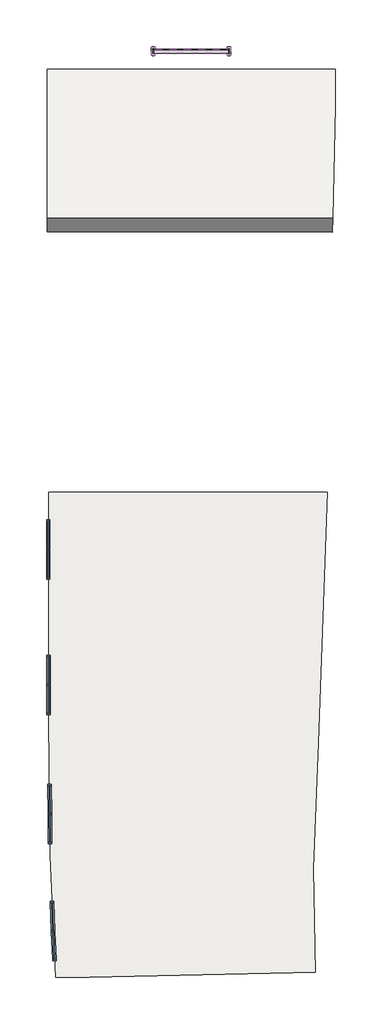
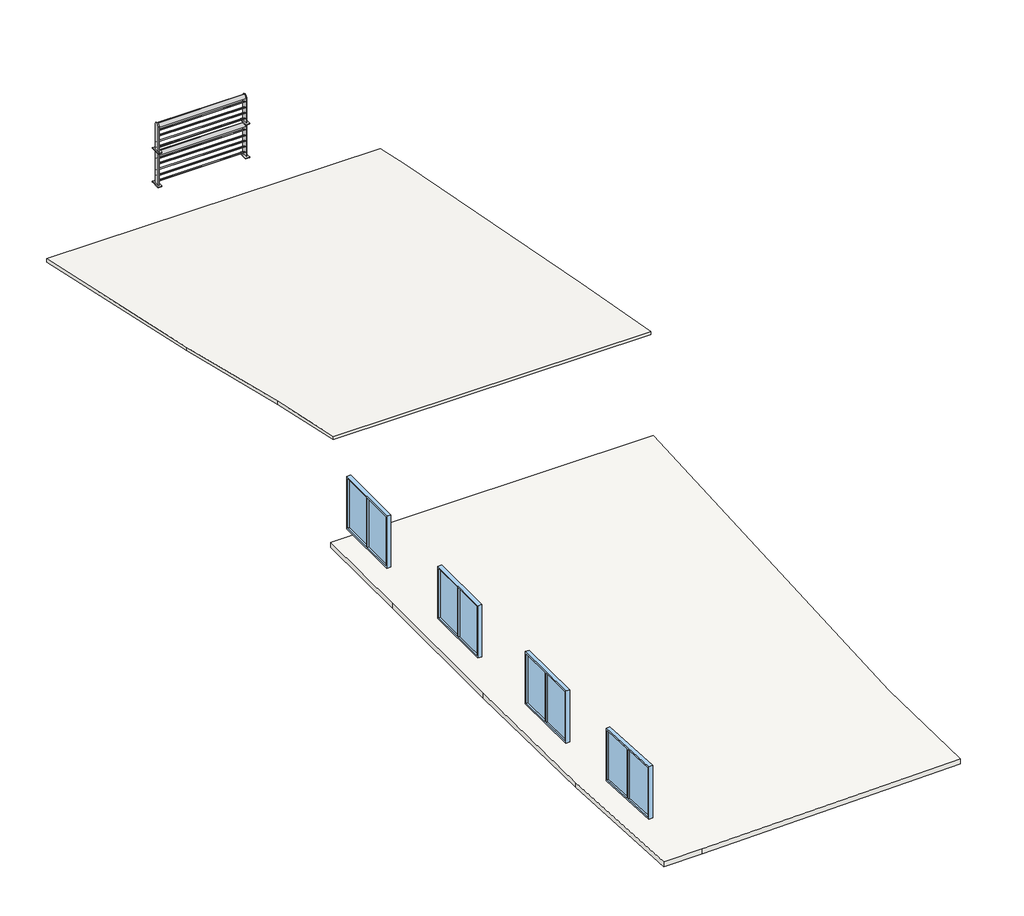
# One storey: 4 windows, 2 proxies, 1 roof, 1 slab.
"""IFC4 building model written with IfcOpenShell, lengths in millimetres."""

from ifc_helpers import new_model, si_unit, frame, origin, place, context, project, spatial, polyline, outline, extrude, faceted_brep, transform, mapped, element, save
from components import brise_soleil_brise_soleil_2_45c54e24, brise_soleil_brise_soleil_2_2f088475, j12_2_00_x_1_60_1745ae86

model = new_model("IFC4")

# Units and contexts
model_context = context("Model", 3, world=origin())
ifc_project = project(units=[si_unit("LENGTHUNIT", "METRE", prefix="MILLI")], contexts=[model_context])

# Site, building, storey
site = spatial("IfcSite", under=ifc_project)
building = spatial("IfcBuilding", under=site)
storey = spatial("IfcBuildingStorey", under=building, Name="3º ANDAR", Elevation=9100.0)

# Proxies
placement = place(None, origin())
brise_soleil_brise_soleil_2_shape = brise_soleil_brise_soleil_2_45c54e24(model_context)
element("IfcBuildingElementProxy", 1, Name="Brise soleil : Brise soleil 2", ObjectType="Brise soleil : Brise soleil 2", at=placement, inside=storey, context=model_context, shape_type="MappedRepresentation", body=[
    mapped(brise_soleil_brise_soleil_2_shape, transform((506.9569424, 17334.8021309, 9875.0), x_axis=(0.9999993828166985, -0.0011110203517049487, 0.0), y_axis=(0.0, 0.0, -1.0), z_axis=(0.0011110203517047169, 0.9999993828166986, 0.0))),
])
brise_soleil_brise_soleil_2_2_shape = brise_soleil_brise_soleil_2_2f088475(model_context)
element("IfcBuildingElementProxy", 2, Name="Brise soleil : Brise soleil 2", ObjectType="Brise soleil : Brise soleil 2", at=placement, inside=storey, context=model_context, shape_type="MappedRepresentation", body=[
    mapped(brise_soleil_brise_soleil_2_2_shape, transform((506.9569424, 17334.8021309, 10905.0), x_axis=(0.9999993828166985, -0.0011110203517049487, 0.0), y_axis=(0.0, 0.0, -1.0), z_axis=(0.0011110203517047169, 0.9999993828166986, 0.0))),
])

# Roof
element("IfcRoof", 3, ObjectType="Genérico - 0.15 m", at=placement, inside=storey, context=model_context, shape_type="Brep", body=[
    faceted_brep([(6619.2338956, 17678.0111701, 9100.0), (6619.2338956, 16443.4829321, 9371.5960447), (6397.1980983, 7232.4255999, 11398.0816781), (6266.9913266, 3503.7915045, 12218.4124986), (-2920.2679046, 3503.7915045, 12220.6580896), (-2920.2679046, 6299.1513572, 11605.6793015), (-3034.8194631, 10662.4198596, 10645.7888227), (-3034.8194631, 17688.7370264, 9100.0), (6619.2338956, 16443.4829321, 9473.9874506), (6619.2338956, 17678.0111701, 9202.3914059), (-3034.8194631, 17688.7370264, 9202.3914059), (-3034.8194631, 10662.4198596, 10748.1802286), (-2920.2679046, 6299.1513572, 11708.0707074), (-2920.2679046, 3503.7915045, 12323.0494955), (6266.9913266, 3503.7915045, 12320.8039044), (6397.1980983, 7232.4255999, 11500.473084)], [[[0, 1, 2, 3, 4, 5, 6, 7]], [[8, 9, 10, 11, 12, 13, 14, 15]], [[7, 10, 9, 0]], [[9, 8, 1, 0]], [[8, 15, 2, 1]], [[15, 14, 3, 2]], [[13, 12, 5, 4]], [[12, 11, 6, 5]], [[11, 10, 7, 6]], [[14, 13, 4, 3]]]),
])

# Slab
element("IfcSlab", 4, ObjectType="Piso de Cerâmica (0.15m)", at=placement, inside=storey, context=model_context, shape_type="SweptSolid", body=[
    extrude(outline(polyline([(6048.190613, -4887.7690431), (5887.0523298, -9104.691434), (5947.7867043, -12584.1614132), (-1630.1229311, -12762.165791), (-2750.1229311, -12762.165791), (-2929.4830087, -8666.0908451), (-2988.8420273, -4126.4789116), (-2988.8420273, 413.5210884), (-2988.8420273, 3503.7915045), (6341.2303645, 3503.7915045), (6048.190613, -4887.7690431)])), frame((0.0, 0.0, 8950.0), z_axis=(0.0, 0.0, 1.0), x_axis=(1.0, 0.0, 0.0)), (0.0, 0.0, 1.0), 150.0),
])

# Windows
j12_2_00_x_1_60_shape = j12_2_00_x_1_60_1745ae86(model_context)
element("IfcWindow", 5, ObjectType="Abrir 2 Folhas : J12 - 2,00 x 1,60", at=placement, inside=storey, context=model_context, shape_type="MappedRepresentation", body=[
    mapped(j12_2_00_x_1_60_shape, transform((-3021.8254293, 1212.6349798, 9200.0), x_axis=(0.0, -1.0, 0.0), y_axis=(1.0, 0.0, 0.0), z_axis=(0.0, 0.0, 1.0))),
])
element("IfcWindow", 6, ObjectType="Abrir 2 Folhas : J12 - 2,00 x 1,60", at=placement, inside=storey, context=model_context, shape_type="MappedRepresentation", body=[
    mapped(j12_2_00_x_1_60_shape, transform((-2841.9101261, -11578.588523, 9200.0), x_axis=(0.04374636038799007, -0.9990426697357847, 0.0), y_axis=(0.9990426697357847, 0.04374636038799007, 0.0), z_axis=(0.0, 0.0, 1.0))),
])
element("IfcWindow", 7, ObjectType="Abrir 2 Folhas : J12 - 2,00 x 1,60", at=placement, inside=storey, context=model_context, shape_type="MappedRepresentation", body=[
    mapped(j12_2_00_x_1_60_shape, transform((-2968.71038, -2584.1650202, 9200.0), x_axis=(0.0, 1.0, 0.0), y_axis=(-1.0, 0.0, 0.0), z_axis=(0.0, 0.0, 1.0))),
])
element("IfcWindow", 8, ObjectType="Abrir 2 Folhas : J12 - 2,00 x 1,60", at=placement, inside=storey, context=model_context, shape_type="MappedRepresentation", body=[
    mapped(j12_2_00_x_1_60_shape, transform((-2933.2426209, -6915.1091756, 9200.0), x_axis=(-0.009189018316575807, 0.9999577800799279, 0.0), y_axis=(-0.9999577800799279, -0.009189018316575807, 0.0), z_axis=(0.0, 0.0, 1.0))),
])

save(model, "model.ifc")
